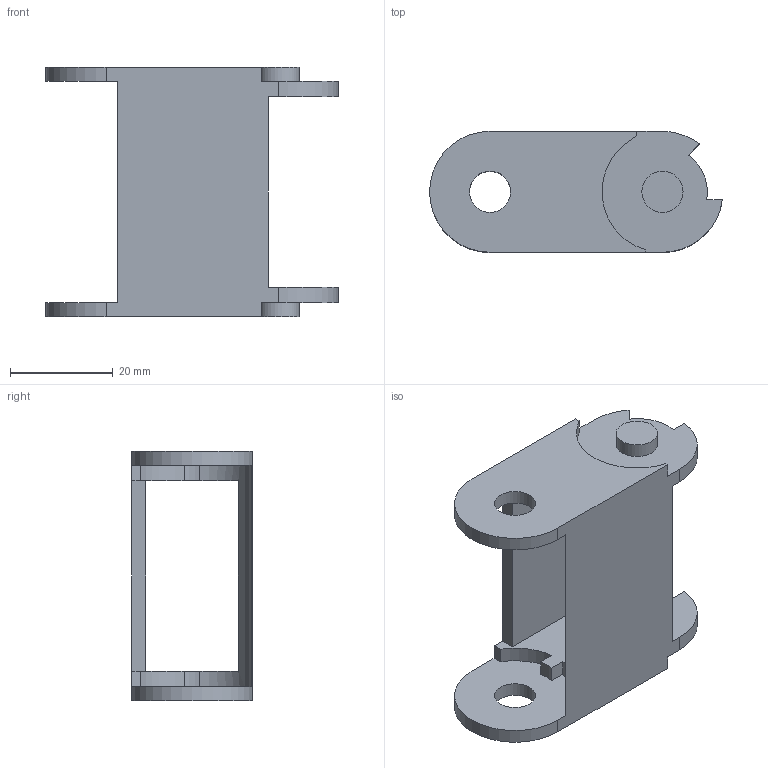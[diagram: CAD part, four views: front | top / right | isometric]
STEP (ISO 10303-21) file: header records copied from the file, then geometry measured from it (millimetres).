
FILE_DESCRIPTION(('STEP AP203'), '1');
FILE_NAME('Êàáåëü-êàíàë ïëàñòèêîâûé J18BF.1.37N-R38', '', ('UNSPECIFIED'), ('UNSPECIFIED'), 'ASCON STEP Converter 1.6', 'ASCON Math Kernel', '');
FILE_SCHEMA(('CONFIG_CONTROL_DESIGN'));
Length unit declared in the file: millimetre
Bounding box: 56.9 x 23.5 x 48.5 mm (x, y, z)
Volume: 13279.9 mm3; surface area: 9852.7 mm2
Topology: 1 solids, 1 shells, 53 faces, 153 edges, 102 vertices
Faces by surface type: plane 34, cylinder 19
Full cylindrical faces by diameter (mm): 8 x4
Entity records: 2244 total; most frequent: CARTESIAN_POINT 309, DIRECTION 305, ORIENTED_EDGE 298, EDGE_CURVE 149, LINE 109, VECTOR 109, VERTEX_POINT 102, AXIS2_PLACEMENT_3D 98
